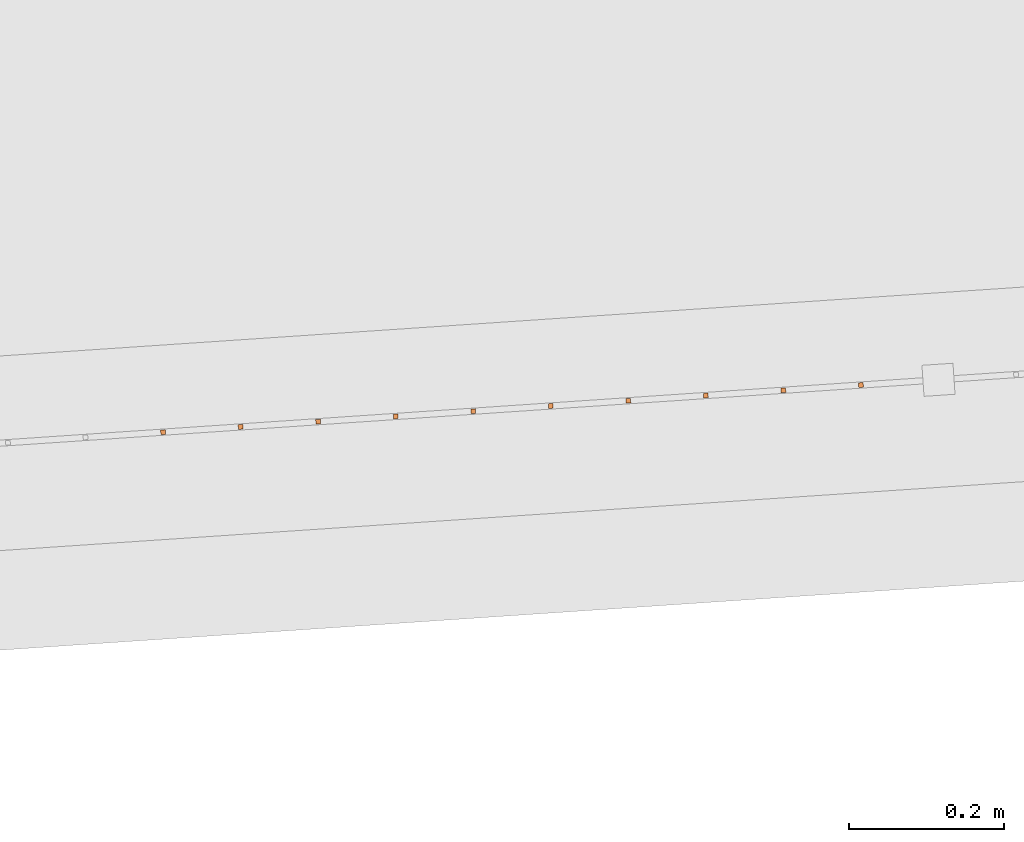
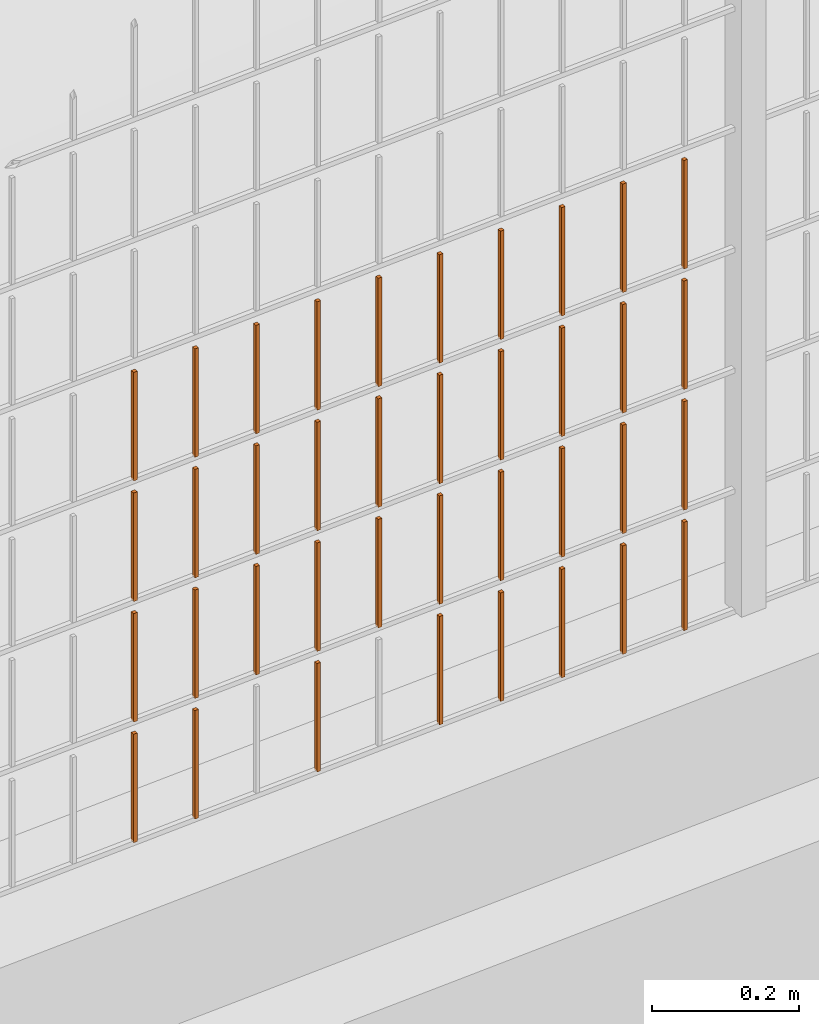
# One storey, part 178 of 1809: 38 proxies, 1 element without a shape of its own.
"""IFC2X3 building model written with IfcOpenShell, lengths in millimetres."""

import ifcopenshell
import ifcopenshell.guid

model = None  # the IFC model being written
_history = None  # IfcOwnerHistory: only IFC2X3 demands one
_inside = {}  # id of a spatial element -> (the spatial element, [elements in it])
_under = {}  # id of a project, library or spatial element -> (it, [spatial elements below it])
_declared = {}  # id of a project -> (the project, [libraries it declares])
_typed = {}  # id of a type object -> (the type object, [elements of that type])
_made_of = {}  # id of a material, layer set ... -> (it, [elements and type objects made of it])


def new_model(schema):
    """Start an empty IFC model of exactly this schema.

    Asked for "IFC4X3", IfcOpenShell would pick the latest addendum, in which some entities
    have other attributes; the version numbers below select the first issue.
    IFC2X3 requires an IfcOwnerHistory on every rooted entity: one is made here for all.
    """
    global model, _history
    if schema == "IFC4X3":
        model = ifcopenshell.file(schema_version=(4, 3, 0, 0))
    else:
        model = ifcopenshell.file(schema=schema)
    _inside.clear()
    _under.clear()
    _declared.clear()
    _typed.clear()
    _made_of.clear()
    _history = None
    if model.schema == "IFC2X3":
        org = make("IfcOrganization", Name="unknown")
        user = make(
            "IfcPersonAndOrganization",
            ThePerson=make("IfcPerson", FamilyName="unknown"),
            TheOrganization=org,
        )
        app = make(
            "IfcApplication",
            ApplicationDeveloper=org,
            Version="unknown",
            ApplicationFullName="unknown",
            ApplicationIdentifier="unknown",
        )
        _history = make(
            "IfcOwnerHistory",
            OwningUser=user,
            OwningApplication=app,
            ChangeAction="ADDED",
            CreationDate=0,
        )
    return model


def make(cls, **values):
    """One entity of the class cls with the attributes given. An attribute that is None is left unset."""
    return model.create_entity(
        cls, **{name: value for name, value in values.items() if value is not None}
    )


def entity(cls, *values):
    """Any entity or typed value of the class cls, its attributes in the order of the schema. None: left unset."""
    e = model.create_entity(cls)
    for i, value in enumerate(values):
        if value is not None:
            e[i] = value
    return e


def rooted(cls, **values):
    """An entity with a GlobalId (a new one), such as an element, a storey or a relation."""
    return make(cls, GlobalId=ifcopenshell.guid.new(), OwnerHistory=_history, **values)


def si_unit(unit_type, name, prefix=None):
    """IfcSIUnit, for example si_unit("LENGTHUNIT", "METRE", prefix="MILLI")."""
    return make("IfcSIUnit", UnitType=unit_type, Prefix=prefix, Name=name)


def converted_unit(unit_type, name, factor, base, dimensions=None, offset=None):
    """IfcConversionBasedUnit, such as the inch: factor (a typed value) times the base unit."""
    return make(
        "IfcConversionBasedUnit"
        if offset is None
        else "IfcConversionBasedUnitWithOffset",
        ConversionOffset=offset,
        Dimensions=None
        if dimensions is None
        else entity("IfcDimensionalExponents", *dimensions),
        UnitType=unit_type,
        Name=name,
        ConversionFactor=make(
            "IfcMeasureWithUnit", ValueComponent=factor, UnitComponent=base
        ),
    )


def derived_unit(unit_type, elements):
    """IfcDerivedUnit: a product of units, each with its exponent."""
    return make(
        "IfcDerivedUnit",
        Elements=[
            make("IfcDerivedUnitElement", Unit=unit, Exponent=power)
            for unit, power in elements
        ],
        UnitType=unit_type,
    )


def money_unit(currency):
    """IfcMonetaryUnit."""
    return make("IfcMonetaryUnit", Currency=currency)


def assignment(units):
    """IfcUnitAssignment: the units of a project."""
    return None if units is None else make("IfcUnitAssignment", Units=units)


def point(xyz):
    """IfcCartesianPoint."""
    return None if xyz is None else make("IfcCartesianPoint", Coordinates=xyz)


def direction(xyz):
    """IfcDirection."""
    return None if xyz is None else make("IfcDirection", DirectionRatios=xyz)


def frame(location, z_axis=None, x_axis=None):
    """IfcAxis2Placement3D, a coordinate frame: its origin and axes. An axis left out is left unset."""
    return make(
        "IfcAxis2Placement3D",
        Location=point(location),
        Axis=direction(z_axis),
        RefDirection=direction(x_axis),
    )


def origin_with_axes():
    """The frame at (0, 0, 0) with the z axis (0, 0, 1) and the x axis (1, 0, 0) written out."""
    return frame((0.0, 0.0, 0.0), z_axis=(0.0, 0.0, 1.0), x_axis=(1.0, 0.0, 0.0))


def place(relative_to, where):
    """IfcLocalPlacement: puts the frame where relative to a parent placement (None: the world)."""
    return make(
        "IfcLocalPlacement", PlacementRelTo=relative_to, RelativePlacement=where
    )


def context(
    kind, dimensions, precision=None, world=None, true_north=None, identifier=None
):
    """IfcGeometricRepresentationContext, for example the 3D "Model" context."""
    return make(
        "IfcGeometricRepresentationContext",
        ContextIdentifier=identifier,
        ContextType=kind,
        CoordinateSpaceDimension=dimensions,
        Precision=precision,
        WorldCoordinateSystem=world,
        TrueNorth=true_north,
    )


def subcontext(parent, identifier, kind, view, scale=None):
    """IfcGeometricRepresentationSubContext, for example "Body" below "Model"."""
    return make(
        "IfcGeometricRepresentationSubContext",
        ContextIdentifier=identifier,
        ContextType=kind,
        ParentContext=parent,
        TargetScale=scale,
        TargetView=view,
    )


def project(units=None, contexts=None):
    """IfcProject with its units and contexts."""
    return rooted(
        "IfcProject",
        Name="project",
        RepresentationContexts=contexts,
        UnitsInContext=assignment(units),
    )


def spatial(cls, under=None, at=None, **own):
    """A site, building, storey or space (cls), placed at a placement, below another one or the project."""
    s = rooted(cls, ObjectPlacement=at, **own)
    if under is not None:
        _under.setdefault(under.id(), (under, []))[1].append(s)
    return s


def faces_of(points, faces, orient=None, outer=None):
    """IfcFace entities. A face is a list of loops; a loop is a list of indices into points, from 0.

    orient and outer hold one flag for each loop. By default every Orientation is true, the
    first loop of a face is its IfcFaceOuterBound and the others are IfcFaceBound.
    """
    made = []
    for i, loops in enumerate(faces):
        bounds = []
        for j, loop in enumerate(loops):
            is_outer = j == 0 if outer is None else outer[i][j]
            bounds.append(
                make(
                    "IfcFaceOuterBound" if is_outer else "IfcFaceBound",
                    Bound=make("IfcPolyLoop", Polygon=[points[k] for k in loop]),
                    Orientation=True if orient is None else orient[i][j],
                )
            )
        made.append(make("IfcFace", Bounds=bounds))
    return made


def faceted_brep(points, faces, orient=None, outer=None, voids=None):
    """IfcFacetedBrep: a solid bounded by flat faces; with voids (closed shells), ...WithVoids."""
    shared = [point(p) for p in points]
    hull = make("IfcClosedShell", CfsFaces=faces_of(shared, faces, orient, outer))
    if voids is None:
        return make("IfcFacetedBrep", Outer=hull)
    return make(
        "IfcFacetedBrepWithVoids",
        Outer=hull,
        Voids=[
            make(cls, CfsFaces=faces_of(shared, fs, o, b)) for cls, fs, o, b in voids
        ],
    )


def shape(context_of_items, identifier, shape_type, items):
    """IfcShapeRepresentation: the items that make up one representation, for example the "Body"."""
    return make(
        "IfcShapeRepresentation",
        ContextOfItems=context_of_items,
        RepresentationIdentifier=identifier,
        RepresentationType=shape_type,
        Items=items,
    )


def source(mapping_origin, context_of_items, identifier, shape_type, items):
    """IfcRepresentationMap: a shape defined once, which mapped items show again and again."""
    return make(
        "IfcRepresentationMap",
        MappingOrigin=mapping_origin,
        MappedRepresentation=shape(context_of_items, identifier, shape_type, items),
    )


def transform(
    local_origin,
    x_axis=None,
    y_axis=None,
    z_axis=None,
    scale=None,
    scale2=None,
    scale3=None,
    uniform=True,
):
    """IfcCartesianTransformationOperator3D, or its non-uniform kind. x_axis, y_axis, z_axis: its Axis1, 2, 3."""
    if uniform:
        return make(
            "IfcCartesianTransformationOperator3D",
            Axis1=direction(x_axis),
            Axis2=direction(y_axis),
            LocalOrigin=point(local_origin),
            Scale=scale,
            Axis3=direction(z_axis),
        )
    return make(
        "IfcCartesianTransformationOperator3DnonUniform",
        Axis1=direction(x_axis),
        Axis2=direction(y_axis),
        LocalOrigin=point(local_origin),
        Scale=scale,
        Axis3=direction(z_axis),
        Scale2=scale2,
        Scale3=scale3,
    )


def mapped(mapping_source, mapping_target):
    """IfcMappedItem: shows the shape of a source again, moved by a transform."""
    return make(
        "IfcMappedItem", MappingSource=mapping_source, MappingTarget=mapping_target
    )


def material(Name=None, Category=None):
    """IfcMaterial."""
    return make("IfcMaterial", Name=Name, Category=Category)


def made_of(thing, what):
    """Note that an element or type object is made of a material, layer set ...; save() writes the relation."""
    if what is not None:
        _made_of.setdefault(what.id(), (what, []))[1].append(thing)
    return thing


def type_object(cls, material=None, **own):
    """A type object (cls), such as IfcWallType, which elements share."""
    return made_of(rooted(cls, **own), material)


def element(
    cls,
    number,
    at=None,
    inside=None,
    cuts=None,
    type_object=None,
    material=None,
    context=None,
    identifier="Body",
    shape_type=None,
    held_by="IfcProductDefinitionShape",
    body=None,
    shapes=None,
    **own,
):
    """One element of the class cls, such as IfcWall. Its Tag is "e" and its number.

    at: its placement. inside: the storey or other place that contains it. cuts: it is an
    opening in that element (IfcRelVoidsElement). A single representation is given by context,
    identifier, shape_type and body (its items); several are given by shapes. held_by: the class
    of the entity that holds the representations. save() writes the other relations.
    """
    e = rooted(cls, Tag="e%d" % number, ObjectPlacement=at, **own)
    if body is not None:
        shapes = [shape(context, identifier, shape_type, body)]
    if shapes is not None:
        e.Representation = make(held_by, Representations=shapes)
    if inside is not None:
        _inside.setdefault(inside.id(), (inside, []))[1].append(e)
    if cuts is not None:
        rooted(
            "IfcRelVoidsElement", RelatingBuildingElement=cuts, RelatedOpeningElement=e
        )
    if type_object is not None:
        _typed.setdefault(type_object.id(), (type_object, []))[1].append(e)
    return made_of(e, material)


def aggregate(whole, parts):
    """IfcRelAggregates: a whole, such as a stair, and the parts it consists of."""
    return rooted("IfcRelAggregates", RelatingObject=whole, RelatedObjects=parts)


def save(model, path):
    """Write the relations noted so far, then the file.

    IfcRelAggregates (storeys below a building ...), IfcRelContainedInSpatialStructure (elements
    in a storey), IfcRelDefinesByType, IfcRelAssociatesMaterial and IfcRelDeclares: one each for
    every whole, place, type object, material and project.
    """
    for whole, parts in _under.values():
        aggregate(whole, parts)
    for where, things in _inside.values():
        rooted(
            "IfcRelContainedInSpatialStructure",
            RelatedElements=things,
            RelatingStructure=where,
        )
    for kind, things in _typed.values():
        rooted("IfcRelDefinesByType", RelatedObjects=things, RelatingType=kind)
    for what, things in _made_of.values():
        rooted("IfcRelAssociatesMaterial", RelatedObjects=things, RelatingMaterial=what)
    for by, libraries in _declared.values():
        rooted("IfcRelDeclares", RelatingContext=by, RelatedDefinitions=libraries)
    model.write(path)


model = new_model("IFC2X3")

# Units and contexts
model_context = context("Model", 3, precision=0.01, world=origin_with_axes(), true_north=direction((0.0, 1.0)))
body_context = subcontext(model_context, "Body", "Model", "MODEL_VIEW")
ifc_project = project(units=[si_unit("LENGTHUNIT", "METRE", prefix="MILLI"), si_unit("AREAUNIT", "SQUARE_METRE"), si_unit("VOLUMEUNIT", "CUBIC_METRE"), converted_unit("PLANEANGLEUNIT", "DEGREE", entity("IfcPlaneAngleMeasure", 0.0174532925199), si_unit("PLANEANGLEUNIT", "RADIAN"), dimensions=[0, 0, 0, 0, 0, 0, 0]), si_unit("SOLIDANGLEUNIT", "STERADIAN"), money_unit("EUR"), converted_unit("TIMEUNIT", "Year", entity("IfcTimeMeasure", 31556926.0), si_unit("TIMEUNIT", "SECOND"), dimensions=[0, 0, 1, 0, 0, 0, 0]), si_unit("MASSUNIT", "GRAM", prefix="KILO"), si_unit("THERMODYNAMICTEMPERATUREUNIT", "DEGREE_CELSIUS"), si_unit("LUMINOUSINTENSITYUNIT", "LUMEN"), si_unit("ENERGYUNIT", "JOULE", prefix="MEGA"), derived_unit("THERMALCONDUCTANCEUNIT", [(si_unit("POWERUNIT", "WATT"), 1), (si_unit("LENGTHUNIT", "METRE"), -1), (si_unit("THERMODYNAMICTEMPERATUREUNIT", "KELVIN"), -1)]), derived_unit("SPECIFICHEATCAPACITYUNIT", [(si_unit("ENERGYUNIT", "JOULE"), 1), (si_unit("MASSUNIT", "GRAM", prefix="KILO"), -1), (si_unit("THERMODYNAMICTEMPERATUREUNIT", "KELVIN"), -1)]), derived_unit("MASSDENSITYUNIT", [(si_unit("MASSUNIT", "GRAM", prefix="KILO"), 1), (si_unit("VOLUMEUNIT", "CUBIC_METRE"), -1)])], contexts=[model_context])

# Site, building, storey
site_placement = place(None, origin_with_axes())
site = spatial("IfcSite", under=ifc_project, at=site_placement, Name="Politse- ja Piirivalveameti ning Päästeameti ühishoone", CompositionType="ELEMENT")
building_placement = place(site_placement, origin_with_axes())
building = spatial("IfcBuilding", under=site, at=building_placement, Name="Politse- ja Piirivalveameti ning Päästeameti ühishoone", CompositionType="ELEMENT")
storey_placement = place(building_placement, origin_with_axes())
storey = spatial("IfcBuildingStorey", under=building, at=storey_placement, Name="Esimene korrus", CompositionType="ELEMENT", Elevation=0.0)

# Proxies
building_element_proxy_type_1 = type_object("IfcBuildingElementProxyType", Name="Railing Type", PredefinedType="NOTDEFINED")
proxy_1_placement = place(storey_placement, frame((89252.001212, -29183.4766571, 203.661247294), z_axis=(0.0, 0.0, 1.0), x_axis=(1.0, 0.0, 0.0)))
proxy_1 = element("IfcBuildingElementProxy", 1, at=proxy_1_placement, inside=storey, type_object=building_element_proxy_type_1, Name="PIIRDEAED")
ifc_material = material(Name="ET-03_Raud")
building_element_proxy_type_2 = type_object("IfcBuildingElementProxyType", Name="IfcBuildingElementProxy", PredefinedType="NOTDEFINED")
shared_shape_1 = source(origin_with_axes(), body_context, "Body", "Brep", [
    faceted_brep([(3.0, 3.0, -0.000752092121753), (-3.0, 3.0, -0.000752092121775), (-3.0, 3.0, 179.99926046), (3.0, 3.0, 179.99926046), (3.0, -3.0, 0.000752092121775), (-3.0, -3.0, 0.000752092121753), (-3.0, -3.0, 180.000764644), (3.0, -3.0, 180.000764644)], [[[0, 1, 2, 3]], [[0, 4, 5, 1]], [[1, 5, 6, 2]], [[3, 2, 6, 7]], [[4, 0, 3, 7]], [[5, 4, 7, 6]]]),
])
proxy_2_placement = place(proxy_1_placement, frame((-72262.0280841, -22178.8020516, 409.077205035), z_axis=(0.0, 0.0, 1.0), x_axis=(1.0, 0.0, 0.0)))
proxy_2 = element("IfcBuildingElementProxy", 2, at=proxy_2_placement, type_object=building_element_proxy_type_2, material=ifc_material, Name="BALUSTER - 001", context=body_context, shape_type="MappedRepresentation", body=[
    mapped(shared_shape_1, transform((0.0, 0.0, 0.0), x_axis=(-0.0673926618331, 0.997726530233, 0.0), y_axis=(-0.997726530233, -0.0673926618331, 0.0), z_axis=(0.0, 0.0, 1.0))),
])
shared_shape_2 = source(origin_with_axes(), body_context, "Body", "Brep", [
    faceted_brep([(3.0, 3.0, -0.000752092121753), (-3.0, 3.0, -0.000752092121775), (-3.0, 3.0, 179.99926046), (3.0, 3.0, 179.99926046), (3.0, -3.0, 0.000752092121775), (-3.0, -3.0, 0.000752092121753), (-3.0, -3.0, 180.000764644), (3.0, -3.0, 180.000764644)], [[[0, 1, 2, 3]], [[0, 4, 5, 1]], [[1, 5, 6, 2]], [[3, 2, 6, 7]], [[4, 0, 3, 7]], [[5, 4, 7, 6]]]),
])
proxy_3_placement = place(proxy_1_placement, frame((-72262.0280841, -22178.8020516, 209.077205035), z_axis=(0.0, 0.0, 1.0), x_axis=(1.0, 0.0, 0.0)))
proxy_3 = element("IfcBuildingElementProxy", 3, at=proxy_3_placement, type_object=building_element_proxy_type_2, material=ifc_material, Name="BALUSTER - 001", context=body_context, shape_type="MappedRepresentation", body=[
    mapped(shared_shape_2, transform((0.0, 0.0, 0.0), x_axis=(-0.0673926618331, 0.997726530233, 0.0), y_axis=(-0.997726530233, -0.0673926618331, 0.0), z_axis=(0.0, 0.0, 1.0))),
])
proxy_4_placement = place(proxy_1_placement, frame((-72262.0280841, -22178.8020516, 609.077205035), z_axis=(0.0, 0.0, 1.0), x_axis=(1.0, 0.0, 0.0)))
proxy_4 = element("IfcBuildingElementProxy", 4, at=proxy_4_placement, type_object=building_element_proxy_type_2, material=ifc_material, Name="BALUSTER - 001", context=body_context, shape_type="MappedRepresentation", body=[
    mapped(shared_shape_2, transform((0.0, 0.0, 0.0), x_axis=(-0.0673926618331, 0.997726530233, 0.0), y_axis=(-0.997726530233, -0.0673926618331, 0.0), z_axis=(0.0, 0.0, 1.0))),
])
shared_shape_3 = source(origin_with_axes(), body_context, "Body", "Brep", [
    faceted_brep([(3.0, 3.0, -0.000752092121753), (-3.0, 3.0, -0.000752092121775), (-3.0, 3.0, 179.99926046), (3.0, 3.0, 179.99926046), (3.0, -3.0, 0.000752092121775), (-3.0, -3.0, 0.000752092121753), (-3.0, -3.0, 180.000764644), (3.0, -3.0, 180.000764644)], [[[0, 1, 2, 3]], [[0, 4, 5, 1]], [[1, 5, 6, 2]], [[3, 2, 6, 7]], [[4, 0, 3, 7]], [[5, 4, 7, 6]]]),
])
proxy_5_placement = place(proxy_1_placement, frame((-72262.0280841, -22178.8020516, 9.07720503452), z_axis=(0.0, 0.0, 1.0), x_axis=(1.0, 0.0, 0.0)))
proxy_5 = element("IfcBuildingElementProxy", 5, at=proxy_5_placement, type_object=building_element_proxy_type_2, material=ifc_material, Name="BALUSTER - 001", context=body_context, shape_type="MappedRepresentation", body=[
    mapped(shared_shape_3, transform((0.0, 0.0, 0.0), x_axis=(-0.0673926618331, 0.997726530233, 0.0), y_axis=(-0.997726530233, -0.0673926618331, 0.0), z_axis=(0.0, 0.0, 1.0))),
])
shared_shape_4 = source(origin_with_axes(), body_context, "Body", "Brep", [
    faceted_brep([(3.0, 3.0, -0.000752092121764), (-3.0, 3.0, -0.000752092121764), (-3.0, 3.0, 179.99926046), (3.0, 3.0, 179.99926046), (3.0, -3.0, 0.000752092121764), (-3.0, -3.0, 0.000752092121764), (-3.0, -3.0, 180.000764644), (3.0, -3.0, 180.000764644)], [[[0, 1, 2, 3]], [[0, 4, 5, 1]], [[1, 5, 6, 2]], [[3, 2, 6, 7]], [[4, 0, 3, 7]], [[5, 4, 7, 6]]]),
])
proxy_6_placement = place(proxy_1_placement, frame((-72561.3460431, -22199.0198502, 9.00199582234), z_axis=(0.0, 0.0, 1.0), x_axis=(1.0, 0.0, 0.0)))
proxy_6 = element("IfcBuildingElementProxy", 6, at=proxy_6_placement, type_object=building_element_proxy_type_2, material=ifc_material, Name="BALUSTER - 001", context=body_context, shape_type="MappedRepresentation", body=[
    mapped(shared_shape_4, transform((0.0, 0.0, 0.0), x_axis=(-0.0673926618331, 0.997726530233, 0.0), y_axis=(-0.997726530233, -0.0673926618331, 0.0), z_axis=(0.0, 0.0, 1.0))),
])
shared_shape_5 = source(origin_with_axes(), body_context, "Body", "Brep", [
    faceted_brep([(3.0, 3.0, -0.000752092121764), (-3.0, 3.0, -0.000752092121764), (-3.0, 3.0, 179.99926046), (3.0, 3.0, 179.99926046), (3.0, -3.0, 0.000752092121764), (-3.0, -3.0, 0.000752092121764), (-3.0, -3.0, 180.000764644), (3.0, -3.0, 180.000764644)], [[[0, 1, 2, 3]], [[0, 4, 5, 1]], [[1, 5, 6, 2]], [[3, 2, 6, 7]], [[4, 0, 3, 7]], [[5, 4, 7, 6]]]),
])
proxy_7_placement = place(proxy_1_placement, frame((-72661.1186962, -22205.7591164, 8.97692608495), z_axis=(0.0, 0.0, 1.0), x_axis=(1.0, 0.0, 0.0)))
proxy_7 = element("IfcBuildingElementProxy", 7, at=proxy_7_placement, type_object=building_element_proxy_type_2, material=ifc_material, Name="BALUSTER - 001", context=body_context, shape_type="MappedRepresentation", body=[
    mapped(shared_shape_5, transform((0.0, 0.0, 0.0), x_axis=(-0.0673926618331, 0.997726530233, 0.0), y_axis=(-0.997726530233, -0.0673926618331, 0.0), z_axis=(0.0, 0.0, 1.0))),
])
proxy_8_placement = place(proxy_1_placement, frame((-72661.1186962, -22205.7591164, 208.976926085), z_axis=(0.0, 0.0, 1.0), x_axis=(1.0, 0.0, 0.0)))
proxy_8 = element("IfcBuildingElementProxy", 8, at=proxy_8_placement, type_object=building_element_proxy_type_2, material=ifc_material, Name="BALUSTER - 001", context=body_context, shape_type="MappedRepresentation", body=[
    mapped(shared_shape_5, transform((0.0, 0.0, 0.0), x_axis=(-0.0673926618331, 0.997726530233, 0.0), y_axis=(-0.997726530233, -0.0673926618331, 0.0), z_axis=(0.0, 0.0, 1.0))),
])
shared_shape_6 = source(origin_with_axes(), body_context, "Body", "Brep", [
    faceted_brep([(3.0, 3.0, -0.000752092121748), (-3.0, 3.0, -0.00075209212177), (-3.0, 3.0, 179.99926046), (3.0, 3.0, 179.99926046), (3.0, -3.0, 0.00075209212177), (-3.0, -3.0, 0.000752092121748), (-3.0, -3.0, 180.000764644), (3.0, -3.0, 180.000764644)], [[[0, 1, 2, 3]], [[0, 4, 5, 1]], [[1, 5, 6, 2]], [[3, 2, 6, 7]], [[4, 0, 3, 7]], [[5, 4, 7, 6]]]),
])
proxy_9_placement = place(proxy_1_placement, frame((-73159.9819613, -22239.4554473, 8.85157739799), z_axis=(0.0, 0.0, 1.0), x_axis=(1.0, 0.0, 0.0)))
proxy_9 = element("IfcBuildingElementProxy", 9, at=proxy_9_placement, type_object=building_element_proxy_type_2, material=ifc_material, Name="BALUSTER - 001", context=body_context, shape_type="MappedRepresentation", body=[
    mapped(shared_shape_6, transform((0.0, 0.0, 0.0), x_axis=(-0.0673926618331, 0.997726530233, 0.0), y_axis=(-0.997726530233, -0.0673926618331, 0.0), z_axis=(0.0, 0.0, 1.0))),
])
shared_shape_7 = source(origin_with_axes(), body_context, "Body", "Brep", [
    faceted_brep([(3.0, 3.0, -0.000752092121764), (-3.0, 3.0, -0.000752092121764), (-3.0, 3.0, 179.99926046), (3.0, 3.0, 179.99926046), (3.0, -3.0, 0.000752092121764), (-3.0, -3.0, 0.000752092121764), (-3.0, -3.0, 180.000764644), (3.0, -3.0, 180.000764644)], [[[0, 1, 2, 3]], [[0, 4, 5, 1]], [[1, 5, 6, 2]], [[3, 2, 6, 7]], [[4, 0, 3, 7]], [[5, 4, 7, 6]]]),
])
proxy_10_placement = place(proxy_1_placement, frame((-72561.3460431, -22199.0198502, 209.001995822), z_axis=(0.0, 0.0, 1.0), x_axis=(1.0, 0.0, 0.0)))
proxy_10 = element("IfcBuildingElementProxy", 10, at=proxy_10_placement, type_object=building_element_proxy_type_2, material=ifc_material, Name="BALUSTER - 001", context=body_context, shape_type="MappedRepresentation", body=[
    mapped(shared_shape_7, transform((0.0, 0.0, 0.0), x_axis=(-0.0673926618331, 0.997726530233, 0.0), y_axis=(-0.997726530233, -0.0673926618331, 0.0), z_axis=(0.0, 0.0, 1.0))),
])
shared_shape_8 = source(origin_with_axes(), body_context, "Body", "Brep", [
    faceted_brep([(3.0, 3.0, -0.000752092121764), (-3.0, 3.0, -0.000752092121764), (-3.0, 3.0, 179.99926046), (3.0, 3.0, 179.99926046), (3.0, -3.0, 0.000752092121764), (-3.0, -3.0, 0.000752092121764), (-3.0, -3.0, 180.000764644), (3.0, -3.0, 180.000764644)], [[[0, 1, 2, 3]], [[0, 4, 5, 1]], [[1, 5, 6, 2]], [[3, 2, 6, 7]], [[4, 0, 3, 7]], [[5, 4, 7, 6]]]),
])
proxy_11_placement = place(proxy_1_placement, frame((-72561.3460431, -22199.0198502, 409.001995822), z_axis=(0.0, 0.0, 1.0), x_axis=(1.0, 0.0, 0.0)))
proxy_11 = element("IfcBuildingElementProxy", 11, at=proxy_11_placement, type_object=building_element_proxy_type_2, material=ifc_material, Name="BALUSTER - 001", context=body_context, shape_type="MappedRepresentation", body=[
    mapped(shared_shape_8, transform((0.0, 0.0, 0.0), x_axis=(-0.0673926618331, 0.997726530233, 0.0), y_axis=(-0.997726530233, -0.0673926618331, 0.0), z_axis=(0.0, 0.0, 1.0))),
])
proxy_12_placement = place(proxy_1_placement, frame((-72661.1186962, -22205.7591164, 408.976926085), z_axis=(0.0, 0.0, 1.0), x_axis=(1.0, 0.0, 0.0)))
proxy_12 = element("IfcBuildingElementProxy", 12, at=proxy_12_placement, type_object=building_element_proxy_type_2, material=ifc_material, Name="BALUSTER - 001", context=body_context, shape_type="MappedRepresentation", body=[
    mapped(shared_shape_8, transform((0.0, 0.0, 0.0), x_axis=(-0.0673926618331, 0.997726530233, 0.0), y_axis=(-0.997726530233, -0.0673926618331, 0.0), z_axis=(0.0, 0.0, 1.0))),
])
proxy_13_placement = place(proxy_1_placement, frame((-72760.8913492, -22212.4983825, 408.951856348), z_axis=(0.0, 0.0, 1.0), x_axis=(1.0, 0.0, 0.0)))
proxy_13 = element("IfcBuildingElementProxy", 13, at=proxy_13_placement, type_object=building_element_proxy_type_2, material=ifc_material, Name="BALUSTER - 001", context=body_context, shape_type="MappedRepresentation", body=[
    mapped(shared_shape_8, transform((0.0, 0.0, 0.0), x_axis=(-0.0673926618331, 0.997726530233, 0.0), y_axis=(-0.997726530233, -0.0673926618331, 0.0), z_axis=(0.0, 0.0, 1.0))),
])
proxy_14_placement = place(proxy_1_placement, frame((-72561.3460431, -22199.0198502, 609.001995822), z_axis=(0.0, 0.0, 1.0), x_axis=(1.0, 0.0, 0.0)))
proxy_14 = element("IfcBuildingElementProxy", 14, at=proxy_14_placement, type_object=building_element_proxy_type_2, material=ifc_material, Name="BALUSTER - 001", context=body_context, shape_type="MappedRepresentation", body=[
    mapped(shared_shape_8, transform((0.0, 0.0, 0.0), x_axis=(-0.0673926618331, 0.997726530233, 0.0), y_axis=(-0.997726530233, -0.0673926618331, 0.0), z_axis=(0.0, 0.0, 1.0))),
])
shared_shape_9 = source(origin_with_axes(), body_context, "Body", "Brep", [
    faceted_brep([(3.0, 3.0, -0.000752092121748), (-3.0, 3.0, -0.00075209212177), (-3.0, 3.0, 179.99926046), (3.0, 3.0, 179.99926046), (3.0, -3.0, 0.00075209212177), (-3.0, -3.0, 0.000752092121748), (-3.0, -3.0, 180.000764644), (3.0, -3.0, 180.000764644)], [[[0, 1, 2, 3]], [[0, 4, 5, 1]], [[1, 5, 6, 2]], [[3, 2, 6, 7]], [[4, 0, 3, 7]], [[5, 4, 7, 6]]]),
])
proxy_15_placement = place(proxy_1_placement, frame((-73159.9819613, -22239.4554473, 208.851577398), z_axis=(0.0, 0.0, 1.0), x_axis=(1.0, 0.0, 0.0)))
proxy_15 = element("IfcBuildingElementProxy", 15, at=proxy_15_placement, type_object=building_element_proxy_type_2, material=ifc_material, Name="BALUSTER - 001", context=body_context, shape_type="MappedRepresentation", body=[
    mapped(shared_shape_9, transform((0.0, 0.0, 0.0), x_axis=(-0.0673926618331, 0.997726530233, 0.0), y_axis=(-0.997726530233, -0.0673926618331, 0.0), z_axis=(0.0, 0.0, 1.0))),
])
shared_shape_10 = source(origin_with_axes(), body_context, "Body", "Brep", [
    faceted_brep([(3.0, 3.0, -0.000752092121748), (-3.0, 3.0, -0.00075209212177), (-3.0, 3.0, 179.99926046), (3.0, 3.0, 179.99926046), (3.0, -3.0, 0.00075209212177), (-3.0, -3.0, 0.000752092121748), (-3.0, -3.0, 180.000764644), (3.0, -3.0, 180.000764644)], [[[0, 1, 2, 3]], [[0, 4, 5, 1]], [[1, 5, 6, 2]], [[3, 2, 6, 7]], [[4, 0, 3, 7]], [[5, 4, 7, 6]]]),
])
proxy_16_placement = place(proxy_1_placement, frame((-72361.8007371, -22185.5413178, 209.052135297), z_axis=(0.0, 0.0, 1.0), x_axis=(1.0, 0.0, 0.0)))
proxy_16 = element("IfcBuildingElementProxy", 16, at=proxy_16_placement, type_object=building_element_proxy_type_2, material=ifc_material, Name="BALUSTER - 001", context=body_context, shape_type="MappedRepresentation", body=[
    mapped(shared_shape_10, transform((0.0, 0.0, 0.0), x_axis=(-0.0673926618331, 0.997726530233, 0.0), y_axis=(-0.997726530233, -0.0673926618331, 0.0), z_axis=(0.0, 0.0, 1.0))),
])
proxy_17_placement = place(proxy_1_placement, frame((-72361.8007371, -22185.5413178, 409.052135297), z_axis=(0.0, 0.0, 1.0), x_axis=(1.0, 0.0, 0.0)))
proxy_17 = element("IfcBuildingElementProxy", 17, at=proxy_17_placement, type_object=building_element_proxy_type_2, material=ifc_material, Name="BALUSTER - 001", context=body_context, shape_type="MappedRepresentation", body=[
    mapped(shared_shape_10, transform((0.0, 0.0, 0.0), x_axis=(-0.0673926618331, 0.997726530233, 0.0), y_axis=(-0.997726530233, -0.0673926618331, 0.0), z_axis=(0.0, 0.0, 1.0))),
])
proxy_18_placement = place(proxy_1_placement, frame((-72461.5733901, -22192.280584, 409.02706556), z_axis=(0.0, 0.0, 1.0), x_axis=(1.0, 0.0, 0.0)))
proxy_18 = element("IfcBuildingElementProxy", 18, at=proxy_18_placement, type_object=building_element_proxy_type_2, material=ifc_material, Name="BALUSTER - 001", context=body_context, shape_type="MappedRepresentation", body=[
    mapped(shared_shape_10, transform((0.0, 0.0, 0.0), x_axis=(-0.0673926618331, 0.997726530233, 0.0), y_axis=(-0.997726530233, -0.0673926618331, 0.0), z_axis=(0.0, 0.0, 1.0))),
])
proxy_19_placement = place(proxy_1_placement, frame((-73159.9819613, -22239.4554473, 408.851577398), z_axis=(0.0, 0.0, 1.0), x_axis=(1.0, 0.0, 0.0)))
proxy_19 = element("IfcBuildingElementProxy", 19, at=proxy_19_placement, type_object=building_element_proxy_type_2, material=ifc_material, Name="BALUSTER - 001", context=body_context, shape_type="MappedRepresentation", body=[
    mapped(shared_shape_10, transform((0.0, 0.0, 0.0), x_axis=(-0.0673926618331, 0.997726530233, 0.0), y_axis=(-0.997726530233, -0.0673926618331, 0.0), z_axis=(0.0, 0.0, 1.0))),
])
proxy_20_placement = place(proxy_1_placement, frame((-72461.5733901, -22192.280584, 609.02706556), z_axis=(0.0, 0.0, 1.0), x_axis=(1.0, 0.0, 0.0)))
proxy_20 = element("IfcBuildingElementProxy", 20, at=proxy_20_placement, type_object=building_element_proxy_type_2, material=ifc_material, Name="BALUSTER - 001", context=body_context, shape_type="MappedRepresentation", body=[
    mapped(shared_shape_10, transform((0.0, 0.0, 0.0), x_axis=(-0.0673926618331, 0.997726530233, 0.0), y_axis=(-0.997726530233, -0.0673926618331, 0.0), z_axis=(0.0, 0.0, 1.0))),
])
proxy_21_placement = place(proxy_1_placement, frame((-73159.9819613, -22239.4554473, 608.851577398), z_axis=(0.0, 0.0, 1.0), x_axis=(1.0, 0.0, 0.0)))
proxy_21 = element("IfcBuildingElementProxy", 21, at=proxy_21_placement, type_object=building_element_proxy_type_2, material=ifc_material, Name="BALUSTER - 001", context=body_context, shape_type="MappedRepresentation", body=[
    mapped(shared_shape_10, transform((0.0, 0.0, 0.0), x_axis=(-0.0673926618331, 0.997726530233, 0.0), y_axis=(-0.997726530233, -0.0673926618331, 0.0), z_axis=(0.0, 0.0, 1.0))),
])
shared_shape_11 = source(origin_with_axes(), body_context, "Body", "Brep", [
    faceted_brep([(3.0, 3.0, -0.000752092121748), (-3.0, 3.0, -0.00075209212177), (-3.0, 3.0, 179.99926046), (3.0, 3.0, 179.99926046), (3.0, -3.0, 0.00075209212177), (-3.0, -3.0, 0.000752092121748), (-3.0, -3.0, 180.000764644), (3.0, -3.0, 180.000764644)], [[[0, 1, 2, 3]], [[0, 4, 5, 1]], [[1, 5, 6, 2]], [[3, 2, 6, 7]], [[4, 0, 3, 7]], [[5, 4, 7, 6]]]),
])
proxy_22_placement = place(proxy_1_placement, frame((-72461.5733901, -22192.280584, 209.02706556), z_axis=(0.0, 0.0, 1.0), x_axis=(1.0, 0.0, 0.0)))
proxy_22 = element("IfcBuildingElementProxy", 22, at=proxy_22_placement, type_object=building_element_proxy_type_2, material=ifc_material, Name="BALUSTER - 001", context=body_context, shape_type="MappedRepresentation", body=[
    mapped(shared_shape_11, transform((0.0, 0.0, 0.0), x_axis=(-0.0673926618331, 0.997726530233, 0.0), y_axis=(-0.997726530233, -0.0673926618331, 0.0), z_axis=(0.0, 0.0, 1.0))),
])
proxy_23_placement = place(proxy_1_placement, frame((-72361.8007371, -22185.5413178, 609.052135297), z_axis=(0.0, 0.0, 1.0), x_axis=(1.0, 0.0, 0.0)))
proxy_23 = element("IfcBuildingElementProxy", 23, at=proxy_23_placement, type_object=building_element_proxy_type_2, material=ifc_material, Name="BALUSTER - 001", context=body_context, shape_type="MappedRepresentation", body=[
    mapped(shared_shape_11, transform((0.0, 0.0, 0.0), x_axis=(-0.0673926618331, 0.997726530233, 0.0), y_axis=(-0.997726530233, -0.0673926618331, 0.0), z_axis=(0.0, 0.0, 1.0))),
])
shared_shape_12 = source(origin_with_axes(), body_context, "Body", "Brep", [
    faceted_brep([(3.0, 3.0, -0.000752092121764), (-3.0, 3.0, -0.000752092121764), (-3.0, 3.0, 179.99926046), (3.0, 3.0, 179.99926046), (3.0, -3.0, 0.000752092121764), (-3.0, -3.0, 0.000752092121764), (-3.0, -3.0, 180.000764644), (3.0, -3.0, 180.000764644)], [[[0, 1, 2, 3]], [[0, 4, 5, 1]], [[1, 5, 6, 2]], [[3, 2, 6, 7]], [[4, 0, 3, 7]], [[5, 4, 7, 6]]]),
])
proxy_24_placement = place(proxy_1_placement, frame((-72661.1186962, -22205.7591164, 608.976926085), z_axis=(0.0, 0.0, 1.0), x_axis=(1.0, 0.0, 0.0)))
proxy_24 = element("IfcBuildingElementProxy", 24, at=proxy_24_placement, type_object=building_element_proxy_type_2, material=ifc_material, Name="BALUSTER - 001", context=body_context, shape_type="MappedRepresentation", body=[
    mapped(shared_shape_12, transform((0.0, 0.0, 0.0), x_axis=(-0.0673926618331, 0.997726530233, 0.0), y_axis=(-0.997726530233, -0.0673926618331, 0.0), z_axis=(0.0, 0.0, 1.0))),
])
shared_shape_13 = source(origin_with_axes(), body_context, "Body", "Brep", [
    faceted_brep([(3.0, 3.0, -0.000752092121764), (-3.0, 3.0, -0.000752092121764), (-3.0, 3.0, 179.99926046), (3.0, 3.0, 179.99926046), (3.0, -3.0, 0.000752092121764), (-3.0, -3.0, 0.000752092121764), (-3.0, -3.0, 180.000764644), (3.0, -3.0, 180.000764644)], [[[0, 1, 2, 3]], [[0, 4, 5, 1]], [[1, 5, 6, 2]], [[3, 2, 6, 7]], [[4, 0, 3, 7]], [[5, 4, 7, 6]]]),
])
proxy_25_placement = place(proxy_1_placement, frame((-72760.8913492, -22212.4983825, 608.951856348), z_axis=(0.0, 0.0, 1.0), x_axis=(1.0, 0.0, 0.0)))
proxy_25 = element("IfcBuildingElementProxy", 25, at=proxy_25_placement, type_object=building_element_proxy_type_2, material=ifc_material, Name="BALUSTER - 001", context=body_context, shape_type="MappedRepresentation", body=[
    mapped(shared_shape_13, transform((0.0, 0.0, 0.0), x_axis=(-0.0673926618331, 0.997726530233, 0.0), y_axis=(-0.997726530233, -0.0673926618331, 0.0), z_axis=(0.0, 0.0, 1.0))),
])
shared_shape_14 = source(origin_with_axes(), body_context, "Body", "Brep", [
    faceted_brep([(3.0, 3.0, -0.000752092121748), (-3.0, 3.0, -0.00075209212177), (-3.0, 3.0, 179.99926046), (3.0, 3.0, 179.99926046), (3.0, -3.0, 0.00075209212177), (-3.0, -3.0, 0.000752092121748), (-3.0, -3.0, 180.000764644), (3.0, -3.0, 180.000764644)], [[[0, 1, 2, 3]], [[0, 4, 5, 1]], [[1, 5, 6, 2]], [[3, 2, 6, 7]], [[4, 0, 3, 7]], [[5, 4, 7, 6]]]),
])
proxy_26_placement = place(proxy_1_placement, frame((-72361.8007371, -22185.5413178, 9.05213529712), z_axis=(0.0, 0.0, 1.0), x_axis=(1.0, 0.0, 0.0)))
proxy_26 = element("IfcBuildingElementProxy", 26, at=proxy_26_placement, type_object=building_element_proxy_type_2, material=ifc_material, Name="BALUSTER - 001", context=body_context, shape_type="MappedRepresentation", body=[
    mapped(shared_shape_14, transform((0.0, 0.0, 0.0), x_axis=(-0.0673926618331, 0.997726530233, 0.0), y_axis=(-0.997726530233, -0.0673926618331, 0.0), z_axis=(0.0, 0.0, 1.0))),
])
proxy_27_placement = place(proxy_1_placement, frame((-72461.5733901, -22192.280584, 9.02706555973), z_axis=(0.0, 0.0, 1.0), x_axis=(1.0, 0.0, 0.0)))
proxy_27 = element("IfcBuildingElementProxy", 27, at=proxy_27_placement, type_object=building_element_proxy_type_2, material=ifc_material, Name="BALUSTER - 001", context=body_context, shape_type="MappedRepresentation", body=[
    mapped(shared_shape_14, transform((0.0, 0.0, 0.0), x_axis=(-0.0673926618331, 0.997726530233, 0.0), y_axis=(-0.997726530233, -0.0673926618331, 0.0), z_axis=(0.0, 0.0, 1.0))),
])
shared_shape_15 = source(origin_with_axes(), body_context, "Body", "Brep", [
    faceted_brep([(3.0, 3.0, -0.000752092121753), (-3.0, 3.0, -0.000752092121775), (-3.0, 3.0, 179.99926046), (3.0, 3.0, 179.99926046), (3.0, -3.0, 0.000752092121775), (-3.0, -3.0, 0.000752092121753), (-3.0, -3.0, 180.000764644), (3.0, -3.0, 180.000764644)], [[[0, 1, 2, 3]], [[0, 4, 5, 1]], [[1, 5, 6, 2]], [[3, 2, 6, 7]], [[4, 0, 3, 7]], [[5, 4, 7, 6]]]),
])
proxy_28_placement = place(proxy_1_placement, frame((-73060.2093082, -22232.7161811, 8.87664713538), z_axis=(0.0, 0.0, 1.0), x_axis=(1.0, 0.0, 0.0)))
proxy_28 = element("IfcBuildingElementProxy", 28, at=proxy_28_placement, type_object=building_element_proxy_type_2, material=ifc_material, Name="BALUSTER - 001", context=body_context, shape_type="MappedRepresentation", body=[
    mapped(shared_shape_15, transform((0.0, 0.0, 0.0), x_axis=(-0.0673926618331, 0.997726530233, 0.0), y_axis=(-0.997726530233, -0.0673926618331, 0.0), z_axis=(0.0, 0.0, 1.0))),
])
shared_shape_16 = source(origin_with_axes(), body_context, "Body", "Brep", [
    faceted_brep([(3.0, 3.0, -0.000752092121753), (-3.0, 3.0, -0.000752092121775), (-3.0, 3.0, 179.99926046), (3.0, 3.0, 179.99926046), (3.0, -3.0, 0.000752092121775), (-3.0, -3.0, 0.000752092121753), (-3.0, -3.0, 180.000764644), (3.0, -3.0, 180.000764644)], [[[0, 1, 2, 3]], [[0, 4, 5, 1]], [[1, 5, 6, 2]], [[3, 2, 6, 7]], [[4, 0, 3, 7]], [[5, 4, 7, 6]]]),
])
proxy_29_placement = place(proxy_1_placement, frame((-73060.2093082, -22232.7161811, 608.876647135), z_axis=(0.0, 0.0, 1.0), x_axis=(1.0, 0.0, 0.0)))
proxy_29 = element("IfcBuildingElementProxy", 29, at=proxy_29_placement, type_object=building_element_proxy_type_2, material=ifc_material, Name="BALUSTER - 001", context=body_context, shape_type="MappedRepresentation", body=[
    mapped(shared_shape_16, transform((0.0, 0.0, 0.0), x_axis=(-0.0673926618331, 0.997726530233, 0.0), y_axis=(-0.997726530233, -0.0673926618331, 0.0), z_axis=(0.0, 0.0, 1.0))),
])
shared_shape_17 = source(origin_with_axes(), body_context, "Body", "Brep", [
    faceted_brep([(3.0, 3.0, -0.000752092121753), (-3.0, 3.0, -0.000752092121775), (-3.0, 3.0, 179.99926046), (3.0, 3.0, 179.99926046), (3.0, -3.0, 0.000752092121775), (-3.0, -3.0, 0.000752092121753), (-3.0, -3.0, 180.000764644), (3.0, -3.0, 180.000764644)], [[[0, 1, 2, 3]], [[0, 4, 5, 1]], [[1, 5, 6, 2]], [[3, 2, 6, 7]], [[4, 0, 3, 7]], [[5, 4, 7, 6]]]),
])
proxy_30_placement = place(proxy_1_placement, frame((-72860.6640022, -22219.2376487, 208.92678661), z_axis=(0.0, 0.0, 1.0), x_axis=(1.0, 0.0, 0.0)))
proxy_30 = element("IfcBuildingElementProxy", 30, at=proxy_30_placement, type_object=building_element_proxy_type_2, material=ifc_material, Name="BALUSTER - 001", context=body_context, shape_type="MappedRepresentation", body=[
    mapped(shared_shape_17, transform((0.0, 0.0, 0.0), x_axis=(-0.0673926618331, 0.997726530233, 0.0), y_axis=(-0.997726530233, -0.0673926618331, 0.0), z_axis=(0.0, 0.0, 1.0))),
])
proxy_31_placement = place(proxy_1_placement, frame((-73060.2093082, -22232.7161811, 208.876647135), z_axis=(0.0, 0.0, 1.0), x_axis=(1.0, 0.0, 0.0)))
proxy_31 = element("IfcBuildingElementProxy", 31, at=proxy_31_placement, type_object=building_element_proxy_type_2, material=ifc_material, Name="BALUSTER - 001", context=body_context, shape_type="MappedRepresentation", body=[
    mapped(shared_shape_17, transform((0.0, 0.0, 0.0), x_axis=(-0.0673926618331, 0.997726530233, 0.0), y_axis=(-0.997726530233, -0.0673926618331, 0.0), z_axis=(0.0, 0.0, 1.0))),
])
proxy_32_placement = place(proxy_1_placement, frame((-72860.6640022, -22219.2376487, 408.92678661), z_axis=(0.0, 0.0, 1.0), x_axis=(1.0, 0.0, 0.0)))
proxy_32 = element("IfcBuildingElementProxy", 32, at=proxy_32_placement, type_object=building_element_proxy_type_2, material=ifc_material, Name="BALUSTER - 001", context=body_context, shape_type="MappedRepresentation", body=[
    mapped(shared_shape_17, transform((0.0, 0.0, 0.0), x_axis=(-0.0673926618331, 0.997726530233, 0.0), y_axis=(-0.997726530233, -0.0673926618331, 0.0), z_axis=(0.0, 0.0, 1.0))),
])
proxy_33_placement = place(proxy_1_placement, frame((-73060.2093082, -22232.7161811, 408.876647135), z_axis=(0.0, 0.0, 1.0), x_axis=(1.0, 0.0, 0.0)))
proxy_33 = element("IfcBuildingElementProxy", 33, at=proxy_33_placement, type_object=building_element_proxy_type_2, material=ifc_material, Name="BALUSTER - 001", context=body_context, shape_type="MappedRepresentation", body=[
    mapped(shared_shape_17, transform((0.0, 0.0, 0.0), x_axis=(-0.0673926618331, 0.997726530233, 0.0), y_axis=(-0.997726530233, -0.0673926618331, 0.0), z_axis=(0.0, 0.0, 1.0))),
])
proxy_34_placement = place(proxy_1_placement, frame((-72860.6640022, -22219.2376487, 608.92678661), z_axis=(0.0, 0.0, 1.0), x_axis=(1.0, 0.0, 0.0)))
proxy_34 = element("IfcBuildingElementProxy", 34, at=proxy_34_placement, type_object=building_element_proxy_type_2, material=ifc_material, Name="BALUSTER - 001", context=body_context, shape_type="MappedRepresentation", body=[
    mapped(shared_shape_17, transform((0.0, 0.0, 0.0), x_axis=(-0.0673926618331, 0.997726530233, 0.0), y_axis=(-0.997726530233, -0.0673926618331, 0.0), z_axis=(0.0, 0.0, 1.0))),
])
shared_shape_18 = source(origin_with_axes(), body_context, "Body", "Brep", [
    faceted_brep([(3.0, 3.0, -0.000752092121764), (-3.0, 3.0, -0.000752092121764), (-3.0, 3.0, 179.99926046), (3.0, 3.0, 179.99926046), (3.0, -3.0, 0.000752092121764), (-3.0, -3.0, 0.000752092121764), (-3.0, -3.0, 180.000764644), (3.0, -3.0, 180.000764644)], [[[0, 1, 2, 3]], [[0, 4, 5, 1]], [[1, 5, 6, 2]], [[3, 2, 6, 7]], [[4, 0, 3, 7]], [[5, 4, 7, 6]]]),
])
proxy_35_placement = place(proxy_1_placement, frame((-72760.8913492, -22212.4983825, 208.951856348), z_axis=(0.0, 0.0, 1.0), x_axis=(1.0, 0.0, 0.0)))
proxy_35 = element("IfcBuildingElementProxy", 35, at=proxy_35_placement, type_object=building_element_proxy_type_2, material=ifc_material, Name="BALUSTER - 001", context=body_context, shape_type="MappedRepresentation", body=[
    mapped(shared_shape_18, transform((0.0, 0.0, 0.0), x_axis=(-0.0673926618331, 0.997726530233, 0.0), y_axis=(-0.997726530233, -0.0673926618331, 0.0), z_axis=(0.0, 0.0, 1.0))),
])
shared_shape_19 = source(origin_with_axes(), body_context, "Body", "Brep", [
    faceted_brep([(3.0, 3.0, -0.000752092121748), (-3.0, 3.0, -0.00075209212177), (-3.0, 3.0, 179.99926046), (3.0, 3.0, 179.99926046), (3.0, -3.0, 0.00075209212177), (-3.0, -3.0, 0.000752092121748), (-3.0, -3.0, 180.000764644), (3.0, -3.0, 180.000764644)], [[[0, 1, 2, 3]], [[0, 4, 5, 1]], [[1, 5, 6, 2]], [[3, 2, 6, 7]], [[4, 0, 3, 7]], [[5, 4, 7, 6]]]),
])
proxy_36_placement = place(proxy_1_placement, frame((-72960.4366552, -22225.9769149, 208.901716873), z_axis=(0.0, 0.0, 1.0), x_axis=(1.0, 0.0, 0.0)))
proxy_36 = element("IfcBuildingElementProxy", 36, at=proxy_36_placement, type_object=building_element_proxy_type_2, material=ifc_material, Name="BALUSTER - 001", context=body_context, shape_type="MappedRepresentation", body=[
    mapped(shared_shape_19, transform((0.0, 0.0, 0.0), x_axis=(-0.0673926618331, 0.997726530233, 0.0), y_axis=(-0.997726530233, -0.0673926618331, 0.0), z_axis=(0.0, 0.0, 1.0))),
])
proxy_37_placement = place(proxy_1_placement, frame((-72960.4366552, -22225.9769149, 608.901716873), z_axis=(0.0, 0.0, 1.0), x_axis=(1.0, 0.0, 0.0)))
proxy_37 = element("IfcBuildingElementProxy", 37, at=proxy_37_placement, type_object=building_element_proxy_type_2, material=ifc_material, Name="BALUSTER - 001", context=body_context, shape_type="MappedRepresentation", body=[
    mapped(shared_shape_19, transform((0.0, 0.0, 0.0), x_axis=(-0.0673926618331, 0.997726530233, 0.0), y_axis=(-0.997726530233, -0.0673926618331, 0.0), z_axis=(0.0, 0.0, 1.0))),
])
shared_shape_20 = source(origin_with_axes(), body_context, "Body", "Brep", [
    faceted_brep([(3.0, 3.0, -0.000752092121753), (-3.0, 3.0, -0.000752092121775), (-3.0, 3.0, 179.99926046), (3.0, 3.0, 179.99926046), (3.0, -3.0, 0.000752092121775), (-3.0, -3.0, 0.000752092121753), (-3.0, -3.0, 180.000764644), (3.0, -3.0, 180.000764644)], [[[0, 1, 2, 3]], [[0, 4, 5, 1]], [[1, 5, 6, 2]], [[3, 2, 6, 7]], [[4, 0, 3, 7]], [[5, 4, 7, 6]]]),
])
proxy_38_placement = place(proxy_1_placement, frame((-72860.6640022, -22219.2376487, 8.92678661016), z_axis=(0.0, 0.0, 1.0), x_axis=(1.0, 0.0, 0.0)))
proxy_38 = element("IfcBuildingElementProxy", 38, at=proxy_38_placement, type_object=building_element_proxy_type_2, material=ifc_material, Name="BALUSTER - 001", context=body_context, shape_type="MappedRepresentation", body=[
    mapped(shared_shape_20, transform((0.0, 0.0, 0.0), x_axis=(-0.0673926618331, 0.997726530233, 0.0), y_axis=(-0.997726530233, -0.0673926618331, 0.0), z_axis=(0.0, 0.0, 1.0))),
])
shared_shape_21 = source(origin_with_axes(), body_context, "Body", "Brep", [
    faceted_brep([(3.0, 3.0, -0.000752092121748), (-3.0, 3.0, -0.00075209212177), (-3.0, 3.0, 179.99926046), (3.0, 3.0, 179.99926046), (3.0, -3.0, 0.00075209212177), (-3.0, -3.0, 0.000752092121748), (-3.0, -3.0, 180.000764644), (3.0, -3.0, 180.000764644)], [[[0, 1, 2, 3]], [[0, 4, 5, 1]], [[1, 5, 6, 2]], [[3, 2, 6, 7]], [[4, 0, 3, 7]], [[5, 4, 7, 6]]]),
])
proxy_39_placement = place(proxy_1_placement, frame((-72960.4366552, -22225.9769149, 408.901716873), z_axis=(0.0, 0.0, 1.0), x_axis=(1.0, 0.0, 0.0)))
proxy_39 = element("IfcBuildingElementProxy", 39, at=proxy_39_placement, type_object=building_element_proxy_type_2, material=ifc_material, Name="BALUSTER - 001", context=body_context, shape_type="MappedRepresentation", body=[
    mapped(shared_shape_21, transform((0.0, 0.0, 0.0), x_axis=(-0.0673926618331, 0.997726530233, 0.0), y_axis=(-0.997726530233, -0.0673926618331, 0.0), z_axis=(0.0, 0.0, 1.0))),
])
aggregate(proxy_1, [proxy_5, proxy_26, proxy_27, proxy_6, proxy_7, proxy_38, proxy_28, proxy_9, proxy_3, proxy_16, proxy_22, proxy_10, proxy_8, proxy_35, proxy_30, proxy_36, proxy_31, proxy_15, proxy_2, proxy_17, proxy_18, proxy_11, proxy_12, proxy_13, proxy_32, proxy_39, proxy_33, proxy_19, proxy_4, proxy_23, proxy_20, proxy_14, proxy_24, proxy_25, proxy_34, proxy_37, proxy_29, proxy_21])

save(model, "model.ifc")
